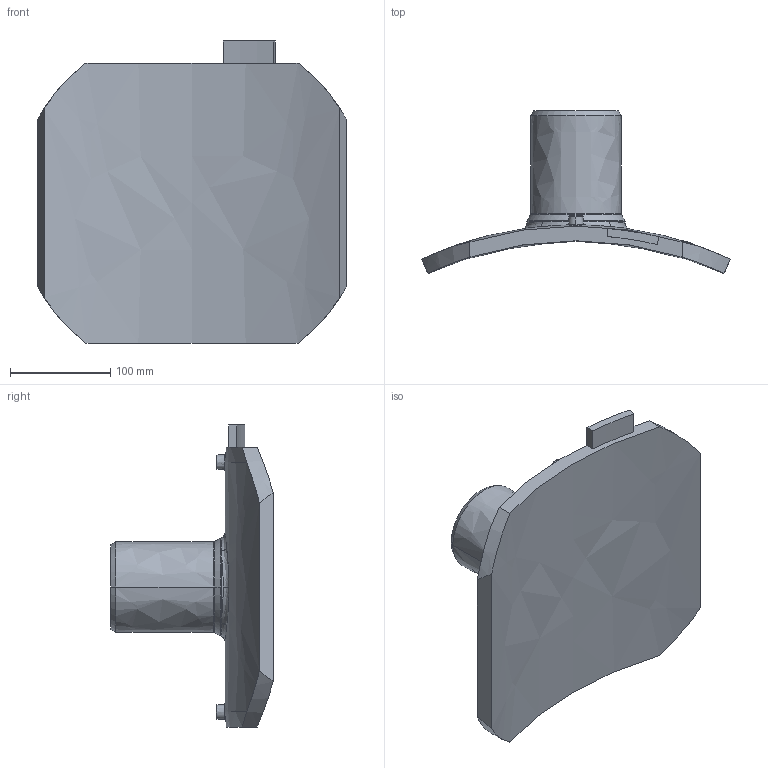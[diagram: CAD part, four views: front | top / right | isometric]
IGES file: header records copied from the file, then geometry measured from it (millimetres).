
Start section:  PTC IGES file: sa-uni_d710_90_01.igs
Global section: file name: sa-uni_d710_90_01.igs; native system: Pro/ENGINEER by Parametric Technology Corporation; preprocessor: 2011490; author: MikulicP; organization: Unknown; date: 20170207.142545; units: millimetre
Bounding box: 307.48 x 162.07 x 301 mm (x, y, z)
Surface area: 249094.8 mm2 (no closed solid volume)
Topology: 0 solids, 0 shells, 216 faces, 1070 edges, 1068 vertices
Faces by surface type: bspline 216
